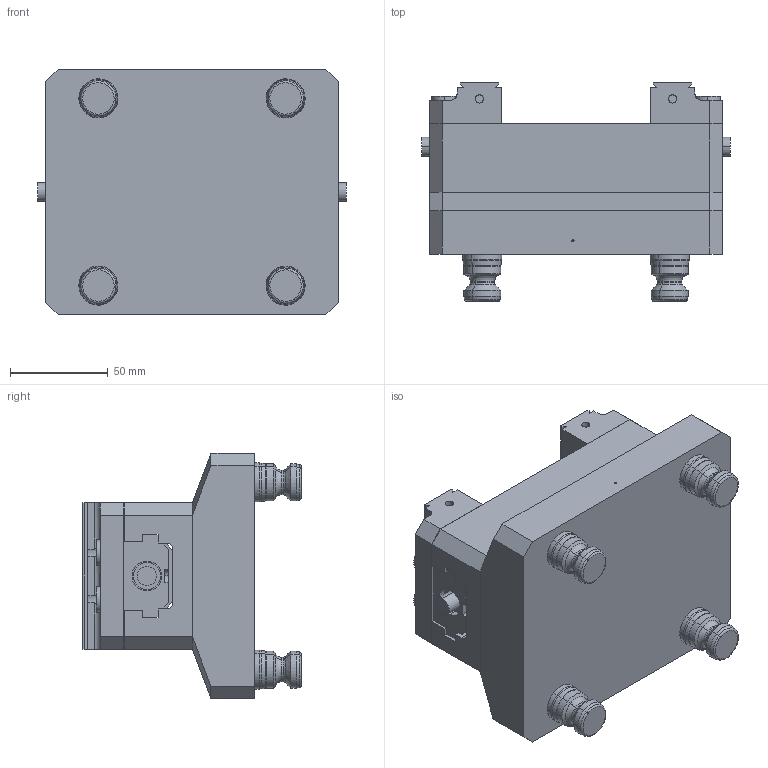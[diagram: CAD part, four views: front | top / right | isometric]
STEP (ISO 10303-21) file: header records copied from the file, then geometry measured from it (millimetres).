
FILE_DESCRIPTION (( 'STEP AP214' ), '1' );
FILE_NAME ('D_R96-V75150X.STEP', '2020-03-13T22:22:32', ( '' ), ( '' ), 'SwSTEP 2.0', 'SolidWorks 2018', '' );
FILE_SCHEMA (( 'AUTOMOTIVE_DESIGN' ));
Length unit declared in the file: millimetre
Products named in the file (7): D_V75100X-5; D_V75150X; D_R96-V75150X; D_PS20F_HARD TURN; D_R96-V75150-1; D_V75150X-1; D_V75100X-2
Assembly tree (11 placements, depth 3):
  D_R96-V75150X
    D_R96-V75150-1
    D_PS20F_HARD TURN  x4
    D_V75150X
      D_V75150X-1
      D_V75100X-2  x2
      D_V75100X-5  x2
Bounding box: 158 x 111.88 x 125.73 mm (x, y, z)
Volume: 974020.9 mm3; surface area: 167626.9 mm2
Topology: 10 solids, 10 shells, 535 faces, 1192 edges, 744 vertices
Faces by surface type: plane 215, cylinder 202, torus 64, cone 54
Entity records: 9331 total; most frequent: DIRECTION 1577, CARTESIAN_POINT 1493, ORIENTED_EDGE 1350, EDGE_CURVE 675, AXIS2_PLACEMENT_3D 594, VERTEX_POINT 434, LINE 389, VECTOR 389
